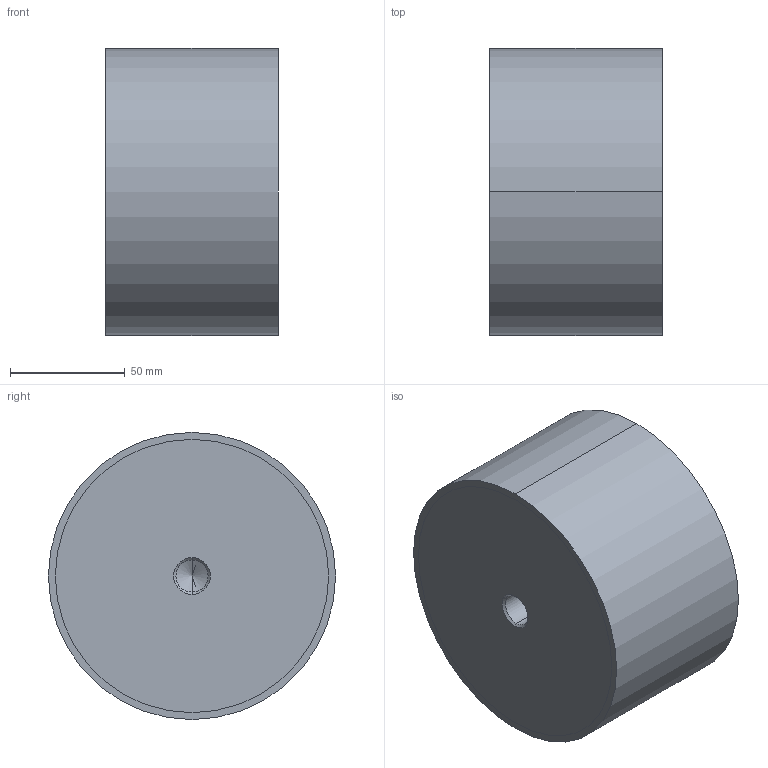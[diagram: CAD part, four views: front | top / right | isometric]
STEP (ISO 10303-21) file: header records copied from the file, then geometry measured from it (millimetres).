
FILE_DESCRIPTION (( 'STEP AP214' ), '1' );
FILE_NAME ('351-125-75-M16-EE-55.step', '2025-07-23T09:49:12', ( '' ), ( '' ), 'SwSTEP 2.0', 'SolidWorks 2022', '' );
FILE_SCHEMA (( 'AUTOMOTIVE_DESIGN' ));
Length unit declared in the file: millimetre
Products named in the file (1): 351-125-75-M16-EE-55
Bounding box: 75 x 125 x 125 mm (x, y, z)
Volume: 914338.2 mm3; surface area: 55537.7 mm2
Topology: 1 solids, 1 shells, 28 faces, 58 edges, 34 vertices
Faces by surface type: cylinder 14, cone 8, plane 6
Entity records: 844 total; most frequent: DIRECTION 144, CARTESIAN_POINT 117, ORIENTED_EDGE 108, AXIS2_PLACEMENT_3D 61, EDGE_CURVE 54, VERTEX_POINT 34, EDGE_LOOP 34, CIRCLE 32
